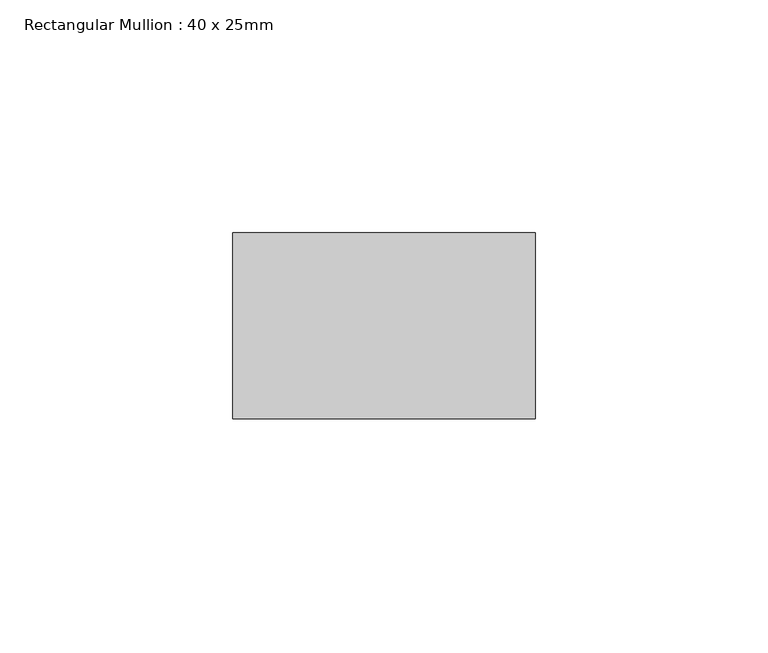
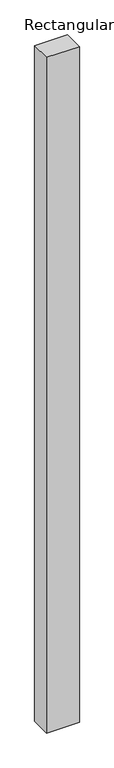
"""IFC4 building model written with IfcOpenShell, lengths in millimetres: member geometry, Rectangular Mullion : 40 x 25mm."""

from ifc_helpers import new_model, si_unit, frame, origin, place, context, project, spatial, polyline, outline, extrude, source, transform, mapped, element, save


def rectangular_mullion_40_x_25mm_93b5e50c(model_context):
    return source(origin(), model_context, "Body", "SweptSolid", [
        extrude(outline(polyline([(0.0, -20.0), (0.0, -60.0), (-65.0, -60.0), (-65.0, -20.0), (0.0, -20.0)])), frame((0.0, 0.0, -1410.0), z_axis=(0.0, 0.0, 1.0), x_axis=(1.0, 0.0, 0.0)), (0.0, 0.0, 1.0), 1410.0),
    ])


if __name__ == "__main__":
    model = new_model("IFC4")
    model_context = context("Model", 3, world=origin())
    ifc_project = project(units=[si_unit("LENGTHUNIT", "METRE", prefix="MILLI")], contexts=[model_context])
    site = spatial("IfcSite", under=ifc_project)
    building = spatial("IfcBuilding", under=site)
    placement = place(None, origin())
    rectangular_mullion_40_x_25mm_shape = rectangular_mullion_40_x_25mm_93b5e50c(model_context)
    element("IfcMember", 1, ObjectType="Rectangular Mullion : 40 x 25mm", at=placement, inside=building, context=model_context, shape_type="MappedRepresentation", body=[
        mapped(rectangular_mullion_40_x_25mm_shape, transform((0.0, 0.0, 0.0), x_axis=(1.0, 0.0, 0.0), y_axis=(0.0, 1.0, 0.0), z_axis=(0.0, 0.0, 1.0))),
    ])
    save(model, "model.ifc")
